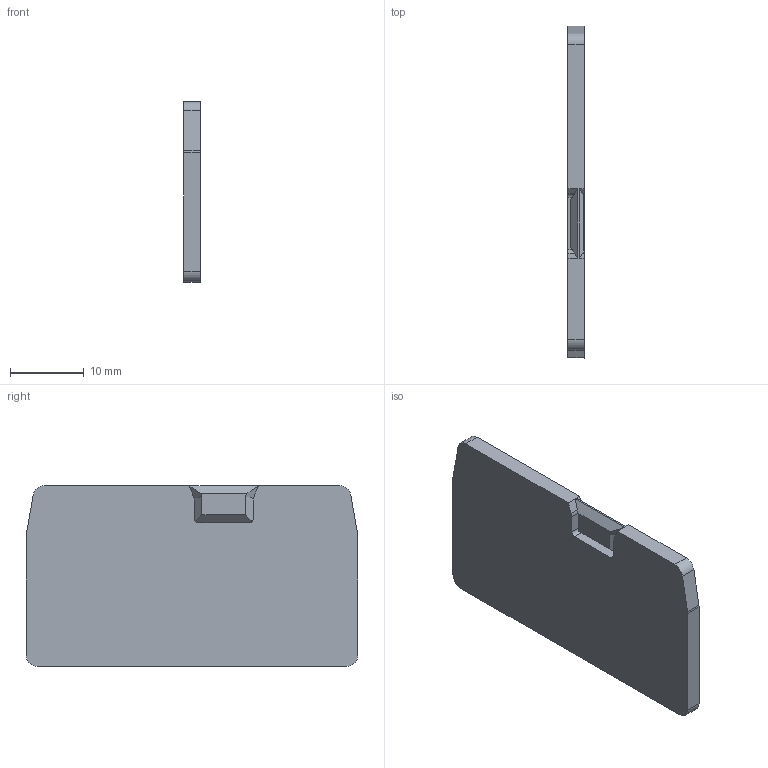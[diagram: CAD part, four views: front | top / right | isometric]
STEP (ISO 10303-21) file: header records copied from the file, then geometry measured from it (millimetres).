
FILE_DESCRIPTION (( 'STEP AP214' ), '1' );
FILE_NAME ('D-VPR-1.5.STEP', '2026-03-30T14:03:18', ( '' ), ( '' ), 'SwSTEP 2.0', 'SolidWorks 2022', '' );
FILE_SCHEMA (( 'AUTOMOTIVE_DESIGN' ));
Length unit declared in the file: millimetre
Products named in the file (1): D-VPR-1.5
Bounding box: 2.2 x 45 x 24.5 mm (x, y, z)
Volume: 2369.9 mm3; surface area: 2513 mm2
Topology: 1 solids, 1 shells, 47 faces, 131 edges, 86 vertices
Faces by surface type: plane 33, cylinder 14
Entity records: 1528 total; most frequent: CARTESIAN_POINT 316, ORIENTED_EDGE 262, DIRECTION 230, EDGE_CURVE 131, LINE 94, VECTOR 94, VERTEX_POINT 86, AXIS2_PLACEMENT_3D 68
